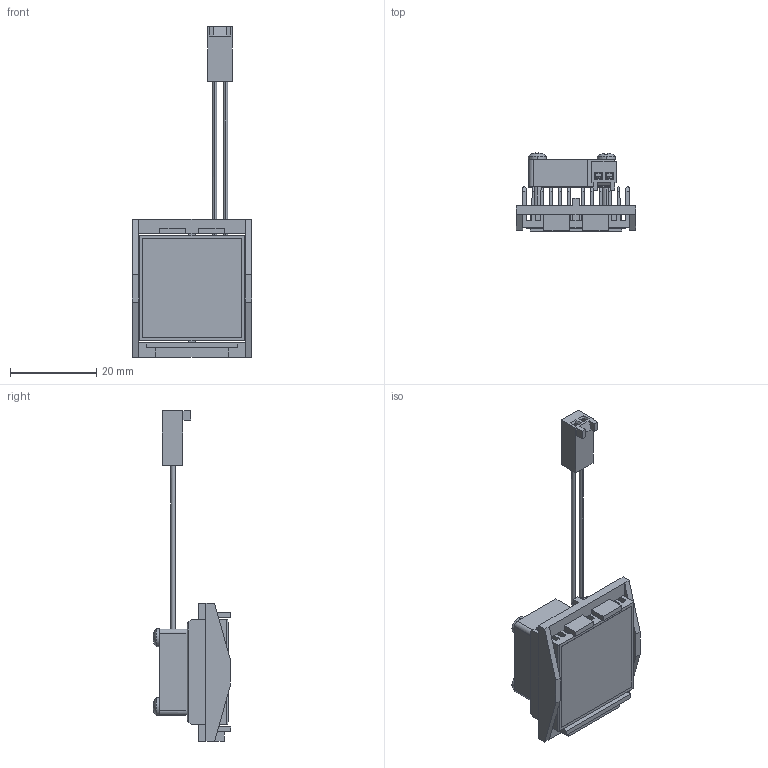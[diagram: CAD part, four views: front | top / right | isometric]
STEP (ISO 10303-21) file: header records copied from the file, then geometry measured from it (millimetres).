
FILE_DESCRIPTION (( 'STEP AP214' ), '1' );
FILE_NAME ('FI25-1.7+O.STEP', '2023-03-21T23:29:47', ( '' ), ( '' ), 'SwSTEP 2.0', 'SolidWorks 2020', '' );
FILE_SCHEMA (( 'AUTOMOTIVE_DESIGN' ));
Length unit declared in the file: millimetre
Products named in the file (1): FI25-1.7+O
Bounding box: 27.7 x 18.08 x 76.75 mm (x, y, z)
Volume: 5737.9 mm3; surface area: 12140.1 mm2
Topology: 7 solids, 7 shells, 414 faces, 1146 edges, 739 vertices
Faces by surface type: plane 247, cylinder 116, bspline 48, sphere 3
Entity records: 19313 total; most frequent: CARTESIAN_POINT 4567, ORIENTED_EDGE 2242, DIRECTION 1875, EDGE_CURVE 1121, LINE 755, VECTOR 755, VERTEX_POINT 736, AXIS2_PLACEMENT_3D 560
